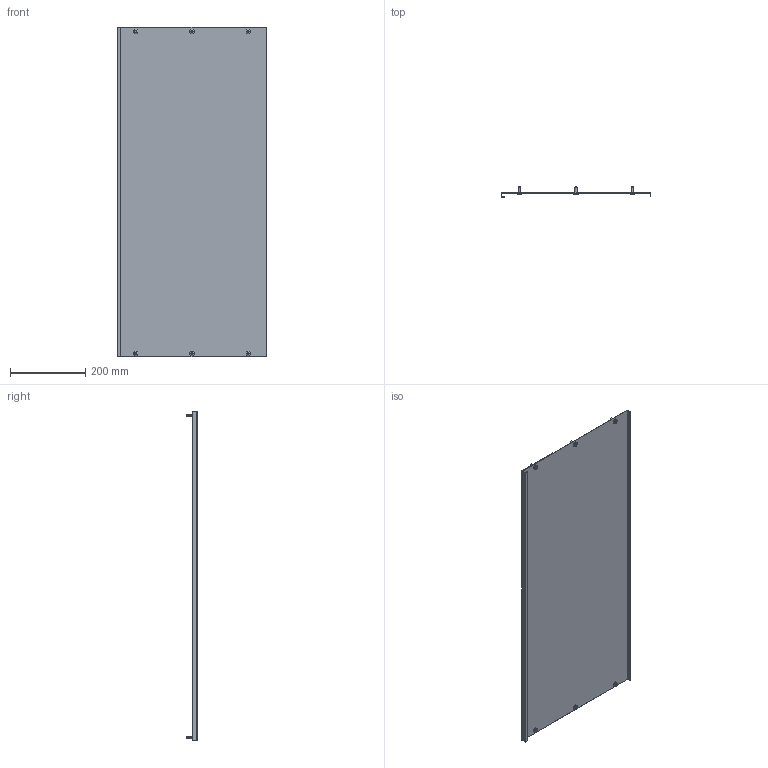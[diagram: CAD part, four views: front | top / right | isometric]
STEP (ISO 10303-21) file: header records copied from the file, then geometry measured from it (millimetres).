
FILE_DESCRIPTION (( 'STEP AP214' ), '1' );
FILE_NAME ('FO-00-PVS-040-100 Ïëàñòðîí ãëóõîé âíóòðåííèé 400õ1000.STEP', '2025-09-30T07:43:26', ( '' ), ( '' ), 'SwSTEP 2.0', 'SolidWorks 2023', '' );
FILE_SCHEMA (( 'AUTOMOTIVE_DESIGN' ));
Length unit declared in the file: millimetre
Products named in the file (3): Винт M6x16 040 IEK; FO-00-PVS-040-100 Пластрон глухой внутренний 400х1000
Assembly tree (3 placements, depth 2):
  FO-00-PVS-040-100 Пластрон глухой внутренний 400х1000
    FO-00-PVS-040-100 Пластрон глухой внутренний 400х1000
    Винт M6x16 040 IEK  x2
Bounding box: 398 x 27 x 879 mm (x, y, z)
Volume: 563310.8 mm3; surface area: 752874.7 mm2
Topology: 7 solids, 7 shells, 214 faces, 558 edges, 364 vertices
Faces by surface type: cylinder 132, plane 52, cone 18, bspline 12
Entity records: 4464 total; most frequent: CARTESIAN_POINT 1022, ORIENTED_EDGE 708, DIRECTION 692, EDGE_CURVE 354, AXIS2_PLACEMENT_3D 256, VERTEX_POINT 232, LINE 180, VECTOR 180
